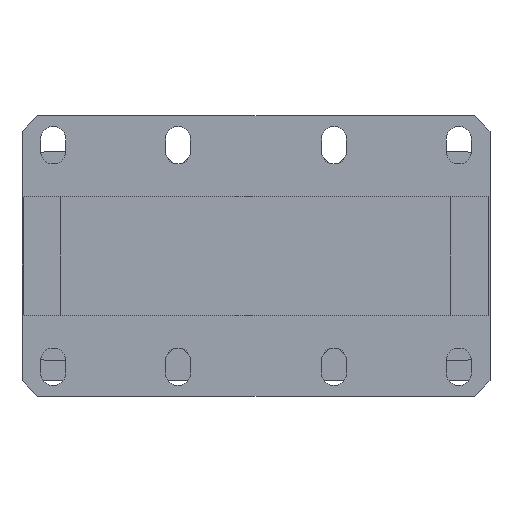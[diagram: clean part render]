
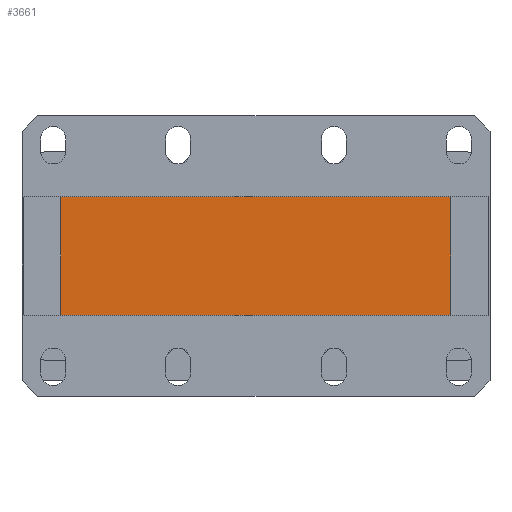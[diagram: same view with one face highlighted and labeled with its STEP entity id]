
A CAD part, front view. The second image highlights one B-rep face of the part: STEP entity #3661.
In plain terms, the highlighted planar face has unit normal (0, -1, 0).
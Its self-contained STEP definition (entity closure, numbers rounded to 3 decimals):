
#313=FACE_OUTER_BOUND('',#541,.T.);
#541=EDGE_LOOP('',(#2717,#2718,#2719,#2720));
#817=LINE('',#5597,#1223);
#821=LINE('',#5605,#1227);
#824=LINE('',#5611,#1230);
#827=LINE('',#5616,#1233);
#1223=VECTOR('',#4493,10.);
#1227=VECTOR('',#4499,10.);
#1230=VECTOR('',#4504,10.);
#1233=VECTOR('',#4509,10.);
#1609=VERTEX_POINT('',#5595);
#1610=VERTEX_POINT('',#5596);
#1613=VERTEX_POINT('',#5604);
#1615=VERTEX_POINT('',#5610);
#2011=EDGE_CURVE('',#1609,#1610,#817,.T.);
#2015=EDGE_CURVE('',#1610,#1613,#821,.T.);
#2018=EDGE_CURVE('',#1613,#1615,#824,.T.);
#2021=EDGE_CURVE('',#1615,#1609,#827,.T.);
#2717=ORIENTED_EDGE('',*,*,#2021,.T.);
#2718=ORIENTED_EDGE('',*,*,#2011,.T.);
#2719=ORIENTED_EDGE('',*,*,#2015,.T.);
#2720=ORIENTED_EDGE('',*,*,#2018,.T.);
#3501=PLANE('',#3941);
#3661=ADVANCED_FACE('',(#313),#3501,.T.);
#3941=AXIS2_PLACEMENT_3D('',#5618,#4511,#4512);
#4493=DIRECTION('',(0.,0.,1.));
#4499=DIRECTION('',(-1.,0.,0.));
#4504=DIRECTION('',(0.,0.,-1.));
#4509=DIRECTION('',(1.,0.,0.));
#4511=DIRECTION('center_axis',(0.,-1.,0.));
#4512=DIRECTION('ref_axis',(0.,0.,-1.));
#5595=CARTESIAN_POINT('',(62.5,2.,-19.));
#5596=CARTESIAN_POINT('',(62.5,2.,19.));
#5597=CARTESIAN_POINT('',(62.5,2.,-19.));
#5604=CARTESIAN_POINT('',(-62.5,2.,19.));
#5605=CARTESIAN_POINT('',(62.5,2.,19.));
#5610=CARTESIAN_POINT('',(-62.5,2.,-19.));
#5611=CARTESIAN_POINT('',(-62.5,2.,19.));
#5616=CARTESIAN_POINT('',(-62.5,2.,-19.));
#5618=CARTESIAN_POINT('Origin',(0.,2.,0.));
